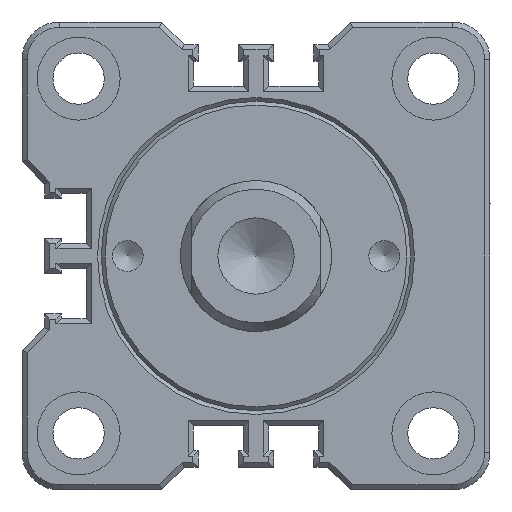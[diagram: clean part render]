
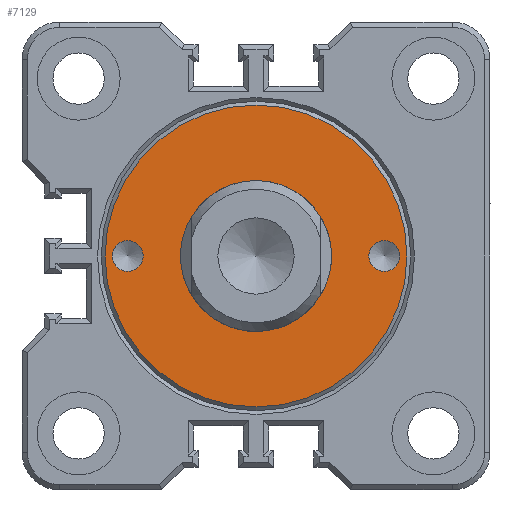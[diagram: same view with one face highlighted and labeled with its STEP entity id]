
A CAD part, front view. The second image highlights one B-rep face of the part: STEP entity #7129.
In plain terms, the highlighted planar face has unit normal (0, -1, 0).
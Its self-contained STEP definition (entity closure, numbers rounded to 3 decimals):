
#65=PLANE('',#7469);
#1324=CIRCLE('',#7462,2.05);
#1325=CIRCLE('',#7464,10.);
#1326=CIRCLE('',#7466,2.05);
#1328=CIRCLE('',#7470,20.);
#1703=ORIENTED_EDGE('',*,*,#2925,.T.);
#1704=ORIENTED_EDGE('',*,*,#2924,.F.);
#1705=ORIENTED_EDGE('',*,*,#2923,.T.);
#1706=ORIENTED_EDGE('',*,*,#2951,.T.);
#2923=EDGE_CURVE('',#3570,#3570,#1324,.T.);
#2924=EDGE_CURVE('',#3571,#3571,#1325,.T.);
#2925=EDGE_CURVE('',#3572,#3572,#1326,.T.);
#2951=EDGE_CURVE('',#3592,#3592,#1328,.T.);
#3570=VERTEX_POINT('',#9940);
#3571=VERTEX_POINT('',#9943);
#3572=VERTEX_POINT('',#9946);
#3592=VERTEX_POINT('',#10114);
#4079=EDGE_LOOP('',(#1703));
#4080=EDGE_LOOP('',(#1704));
#4081=EDGE_LOOP('',(#1705));
#4082=EDGE_LOOP('',(#1706));
#4465=FACE_BOUND('',#4079,.T.);
#4466=FACE_BOUND('',#4080,.T.);
#4467=FACE_BOUND('',#4081,.T.);
#4468=FACE_BOUND('',#4082,.T.);
#7129=ADVANCED_FACE('',(#4465,#4466,#4467,#4468),#65,.T.);
#7462=AXIS2_PLACEMENT_3D('',#9939,#7968,#7969);
#7464=AXIS2_PLACEMENT_3D('',#9942,#7972,#7973);
#7466=AXIS2_PLACEMENT_3D('',#9945,#7976,#7977);
#7469=AXIS2_PLACEMENT_3D('',#10112,#7982,#7983);
#7470=AXIS2_PLACEMENT_3D('',#10113,#7984,#7985);
#7968=DIRECTION('',(0.,1.,0.));
#7969=DIRECTION('',(0.,0.,-1.));
#7972=DIRECTION('',(0.,-1.,0.));
#7973=DIRECTION('',(1.,0.,0.));
#7976=DIRECTION('',(0.,1.,0.));
#7977=DIRECTION('',(0.,0.,-1.));
#7982=DIRECTION('',(0.,-1.,0.));
#7983=DIRECTION('',(1.,0.,0.));
#7984=DIRECTION('',(0.,-1.,0.));
#7985=DIRECTION('',(0.,0.,-1.));
#9939=CARTESIAN_POINT('',(-17.,0.,0.));
#9940=CARTESIAN_POINT('',(-17.,0.,-2.05));
#9942=CARTESIAN_POINT('',(0.,0.,0.));
#9943=CARTESIAN_POINT('',(10.,0.,0.));
#9945=CARTESIAN_POINT('',(17.,0.,0.));
#9946=CARTESIAN_POINT('',(17.,0.,-2.05));
#10112=CARTESIAN_POINT('',(-26.,0.,26.));
#10113=CARTESIAN_POINT('',(0.,0.,0.));
#10114=CARTESIAN_POINT('',(0.,0.,-20.));
